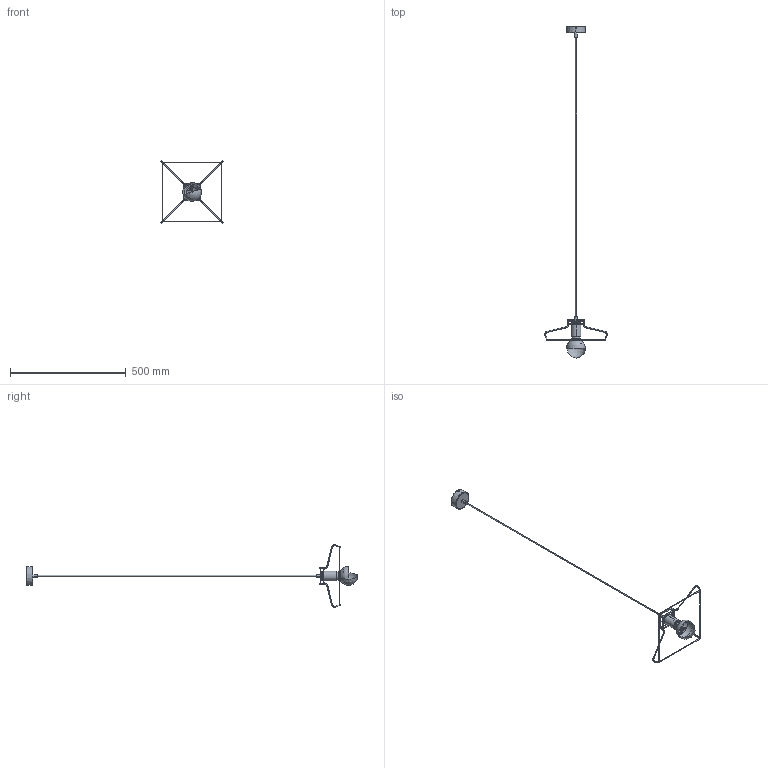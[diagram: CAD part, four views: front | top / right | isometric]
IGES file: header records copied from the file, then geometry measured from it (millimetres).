
Start section: SolidWorks IGES file using analytic representation for surfaces
Global section: file name: E:\_DESIGN\NOWOŒCI\Druciaki\Wybrane druciaki\Wzór p³aski\Wzór p³aski.IGS; native system: SolidWorks 2016; preprocessor: SolidWorks 2016; author: Asia; date: 170317.153925; units: millimetre
Bounding box: 269.43 x 1436.66 x 269.43 mm (x, y, z)
Surface area: 153449.1 mm2 (no closed solid volume)
Topology: 0 solids, 0 shells, 378 faces, 4018 edges, 4013 vertices
Faces by surface type: revolution 210, bspline 168
